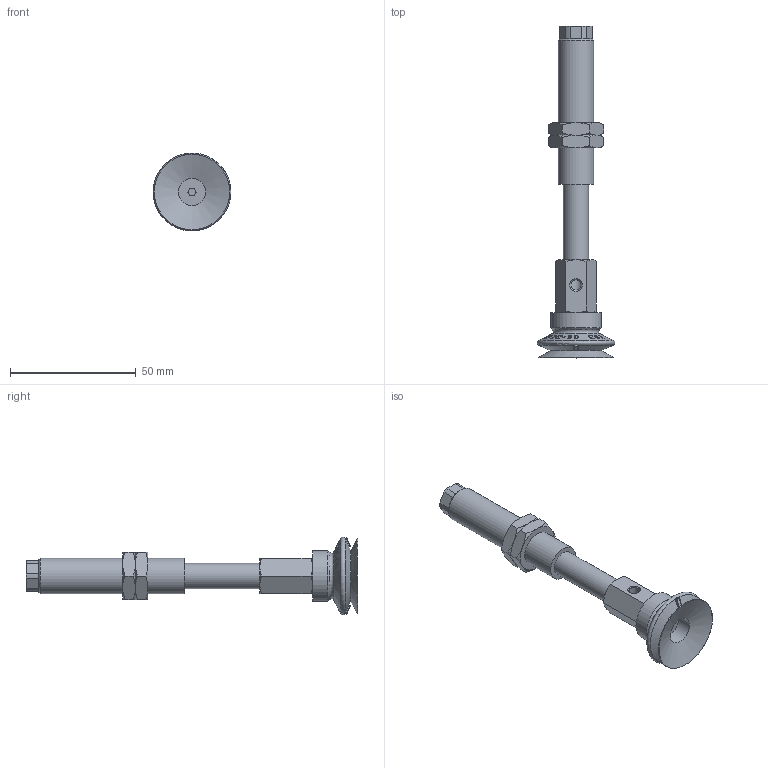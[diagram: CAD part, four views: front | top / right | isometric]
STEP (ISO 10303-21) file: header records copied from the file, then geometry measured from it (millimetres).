
FILE_DESCRIPTION(('STEP AP214'),'1');
FILE_NAME('.stp','2026-01-21T06:01:20',(' '),(' '),'Spatial InterOp 3D',' ',' ');
FILE_SCHEMA(('AUTOMOTIVE_DESIGN { 1 0 10303 214 1 1 1 1 }'));
Length unit declared in the file: millimetre
Products named in the file (7): BNABPJYS-30-30-※; BPJG-30-※; Adapter-30-NAPJ; CONNECTOR_S-30-30; NUT-NAPJ-30-30-s; NAPJYS-30-30-FBODY; NAPJYS-30-30-MBODY
Assembly tree (7 placements, depth 2):
  BNABPJYS-30-30-※
    BPJG-30-※
    Adapter-30-NAPJ
    CONNECTOR_S-30-30
    NUT-NAPJ-30-30-s  x2
    NAPJYS-30-30-FBODY
    NAPJYS-30-30-MBODY
Bounding box: 30.99 x 132 x 30.99 mm (x, y, z)
Volume: 22295.4 mm3; surface area: 16071.4 mm2
Topology: 7 solids, 7 shells, 782 faces, 2167 edges, 1422 vertices
Faces by surface type: plane 675, cone 70, cylinder 30, torus 7
Full cylindrical faces by diameter (mm): 3 x2, 4.134 x2, 4.917 x1, 5 x1, 5.8 x1, 6 x1, 10 x2, 10.8 x1, 11 x1, 13.188 x2, 14 x1, 20 x1
Entity records: 31294 total; most frequent: CARTESIAN_POINT 7788, ORIENTED_EDGE 4160, DIRECTION 2637, EDGE_CURVE 2080, VERTEX_POINT 1389, B_SPLINE_CURVE_WITH_KNOTS 1083, LINE 891, VECTOR 891
